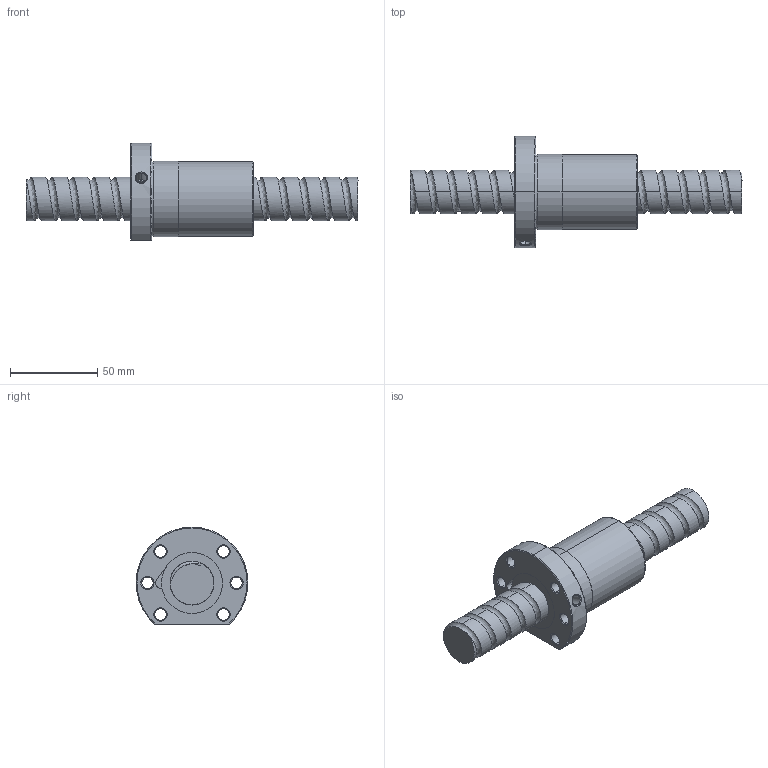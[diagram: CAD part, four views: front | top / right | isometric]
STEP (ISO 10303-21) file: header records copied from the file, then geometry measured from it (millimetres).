
FILE_DESCRIPTION (( 'STEP AP214' ), '1' );
FILE_NAME ('FSDC02512T4-C-B.STEP', '2010-06-25T11:49:19', ( 'XPAUTO' ), ( 'XPAUTO' ), 'SwSTEP 2.0', 'SolidWorks 2007', '' );
FILE_SCHEMA (( 'AUTOMOTIVE_DESIGN' ));
Length unit declared in the file: millimetre
Products named in the file (3): FSDC02512T4-C-B; FSDC02512T4-C-B.sldasm-Part-2_預設; FSDC02512T4-C-B.sldasm-Part-1_預設
Assembly tree (2 placements, depth 2):
  FSDC02512T4-C-B
    FSDC02512T4-C-B.sldasm-Part-1_預設
    FSDC02512T4-C-B.sldasm-Part-2_預設
Bounding box: 190 x 63.99 x 56 mm (x, y, z)
Volume: 168921.5 mm3; surface area: 39697 mm2
Topology: 2 solids, 2 shells, 124 faces, 309 edges, 194 vertices
Faces by surface type: cylinder 71, cone 24, plane 19, bspline 5, torus 5
Entity records: 25294 total; most frequent: CARTESIAN_POINT 22330, ORIENTED_EDGE 618, DIRECTION 577, EDGE_CURVE 309, AXIS2_PLACEMENT_3D 235, VERTEX_POINT 194, EDGE_LOOP 145, FACE_OUTER_BOUND 124
